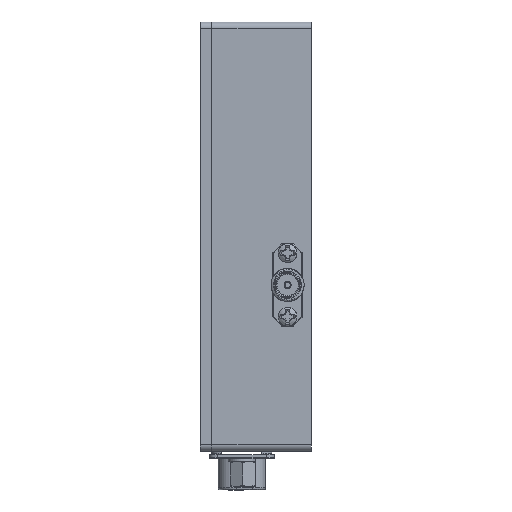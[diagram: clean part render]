
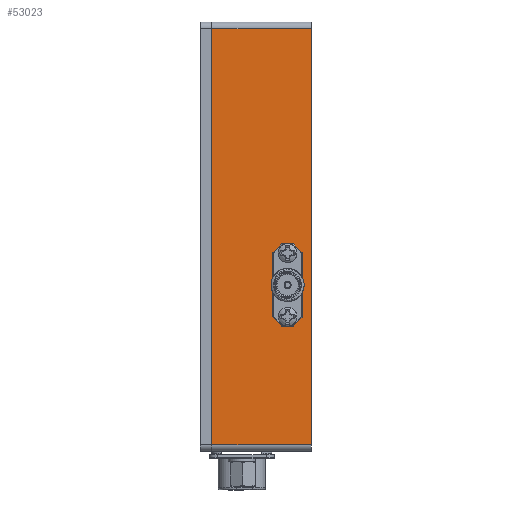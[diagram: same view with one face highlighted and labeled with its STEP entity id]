
A CAD part, left-side view. The second image highlights one B-rep face of the part: STEP entity #53023.
In plain terms, the highlighted planar face has unit normal (-1, 0, 0).
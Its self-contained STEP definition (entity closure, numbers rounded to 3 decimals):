
#675 = VERTEX_POINT ( 'NONE', #28914 ) ;
#1171 = VECTOR ( 'NONE', #41755, 1000. ) ;
#3436 = FACE_OUTER_BOUND ( 'NONE', #39582, .T. ) ;
#3704 = FACE_BOUND ( 'NONE', #20018, .T. ) ;
#4170 = CARTESIAN_POINT ( 'NONE',  ( 0., 19.126, 81.28 ) ) ;
#4234 = CARTESIAN_POINT ( 'NONE',  ( 0., 4.572, 39.218 ) ) ;
#5140 = AXIS2_PLACEMENT_3D ( 'NONE', #15968, #40958, #19303 ) ;
#6981 = LINE ( 'NONE', #36276, #8851 ) ;
#6994 = DIRECTION ( 'NONE',  ( 1., 0., 0. ) ) ;
#7748 = DIRECTION ( 'NONE',  ( 0., -1., 0. ) ) ;
#8200 = ORIENTED_EDGE ( 'NONE', *, *, #35753, .F. ) ;
#8540 = LINE ( 'NONE', #4170, #40754 ) ;
#8851 = VECTOR ( 'NONE', #15449, 1000. ) ;
#10860 = EDGE_CURVE ( 'NONE', #41576, #41576, #49590, .T. ) ;
#13428 = LINE ( 'NONE', #33783, #1171 ) ;
#15449 = DIRECTION ( 'NONE',  ( 0., -1., 0. ) ) ;
#15579 = CARTESIAN_POINT ( 'NONE',  ( 0., 4.572, 38.125 ) ) ;
#15968 = CARTESIAN_POINT ( 'NONE',  ( 0., 4.572, 25.883 ) ) ;
#16131 = ORIENTED_EDGE ( 'NONE', *, *, #36136, .T. ) ;
#16139 = CARTESIAN_POINT ( 'NONE',  ( 0., 0., 1.27 ) ) ;
#16426 = LINE ( 'NONE', #16139, #45125 ) ;
#17190 = DIRECTION ( 'NONE',  ( 0., 0., 1. ) ) ;
#18807 = CIRCLE ( 'NONE', #25831, 1.092 ) ;
#19303 = DIRECTION ( 'NONE',  ( 0., 0., 1. ) ) ;
#20018 = EDGE_LOOP ( 'NONE', ( #48284 ) ) ;
#20182 = VERTEX_POINT ( 'NONE', #52659 ) ;
#20426 = FACE_BOUND ( 'NONE', #45828, .T. ) ;
#21656 = ORIENTED_EDGE ( 'NONE', *, *, #29423, .F. ) ;
#21881 = CARTESIAN_POINT ( 'NONE',  ( 0., 4.572, 32.004 ) ) ;
#23750 = DIRECTION ( 'NONE',  ( 0., 0., -1. ) ) ;
#25831 = AXIS2_PLACEMENT_3D ( 'NONE', #15579, #36699, #44432 ) ;
#26569 = EDGE_CURVE ( 'NONE', #40038, #20182, #13428, .T. ) ;
#27041 = VERTEX_POINT ( 'NONE', #39350 ) ;
#28149 = VERTEX_POINT ( 'NONE', #4234 ) ;
#28914 = CARTESIAN_POINT ( 'NONE',  ( 0., 0., 1.27 ) ) ;
#29423 = EDGE_CURVE ( 'NONE', #27041, #27041, #43681, .T. ) ;
#29654 = CARTESIAN_POINT ( 'NONE',  ( 0., 0., 81.28 ) ) ;
#33783 = CARTESIAN_POINT ( 'NONE',  ( 0., 19.126, 1.27 ) ) ;
#34975 = AXIS2_PLACEMENT_3D ( 'NONE', #53681, #6994, #23750 ) ;
#35753 = EDGE_CURVE ( 'NONE', #20182, #41880, #8540, .T. ) ;
#36136 = EDGE_CURVE ( 'NONE', #675, #41880, #16426, .T. ) ;
#36276 = CARTESIAN_POINT ( 'NONE',  ( 0., 19.126, 1.27 ) ) ;
#36699 = DIRECTION ( 'NONE',  ( -1., 0., 0. ) ) ;
#37107 = PLANE ( 'NONE',  #34975 ) ;
#37112 = ORIENTED_EDGE ( 'NONE', *, *, #45844, .F. ) ;
#39350 = CARTESIAN_POINT ( 'NONE',  ( 0., 4.572, 26.975 ) ) ;
#39451 = EDGE_LOOP ( 'NONE', ( #37112 ) ) ;
#39582 = EDGE_LOOP ( 'NONE', ( #16131, #8200, #44676, #53661 ) ) ;
#40038 = VERTEX_POINT ( 'NONE', #42132 ) ;
#40754 = VECTOR ( 'NONE', #7748, 1000. ) ;
#40958 = DIRECTION ( 'NONE',  ( -1., 0., 0. ) ) ;
#41323 = CARTESIAN_POINT ( 'NONE',  ( 0., 4.572, 33.287 ) ) ;
#41576 = VERTEX_POINT ( 'NONE', #41323 ) ;
#41755 = DIRECTION ( 'NONE',  ( 0., 0., 1. ) ) ;
#41880 = VERTEX_POINT ( 'NONE', #29654 ) ;
#42132 = CARTESIAN_POINT ( 'NONE',  ( 0., 19.126, 1.27 ) ) ;
#43681 = CIRCLE ( 'NONE', #5140, 1.092 ) ;
#44432 = DIRECTION ( 'NONE',  ( 0., 0., 1. ) ) ;
#44676 = ORIENTED_EDGE ( 'NONE', *, *, #26569, .F. ) ;
#45125 = VECTOR ( 'NONE', #54348, 1000. ) ;
#45828 = EDGE_LOOP ( 'NONE', ( #21656 ) ) ;
#45844 = EDGE_CURVE ( 'NONE', #28149, #28149, #18807, .T. ) ;
#46106 = AXIS2_PLACEMENT_3D ( 'NONE', #21881, #54321, #17190 ) ;
#48284 = ORIENTED_EDGE ( 'NONE', *, *, #10860, .F. ) ;
#49590 = CIRCLE ( 'NONE', #46106, 1.283 ) ;
#49796 = FACE_BOUND ( 'NONE', #39451, .T. ) ;
#52659 = CARTESIAN_POINT ( 'NONE',  ( 0., 19.126, 81.28 ) ) ;
#53023 = ADVANCED_FACE ( 'NONE', ( #49796, #20426, #3704, #3436 ), #37107, .F. ) ;
#53661 = ORIENTED_EDGE ( 'NONE', *, *, #53940, .T. ) ;
#53681 = CARTESIAN_POINT ( 'NONE',  ( 0., 19.126, 1.27 ) ) ;
#53940 = EDGE_CURVE ( 'NONE', #40038, #675, #6981, .T. ) ;
#54321 = DIRECTION ( 'NONE',  ( -1., 0., 0. ) ) ;
#54348 = DIRECTION ( 'NONE',  ( 0., 0., 1. ) ) ;
